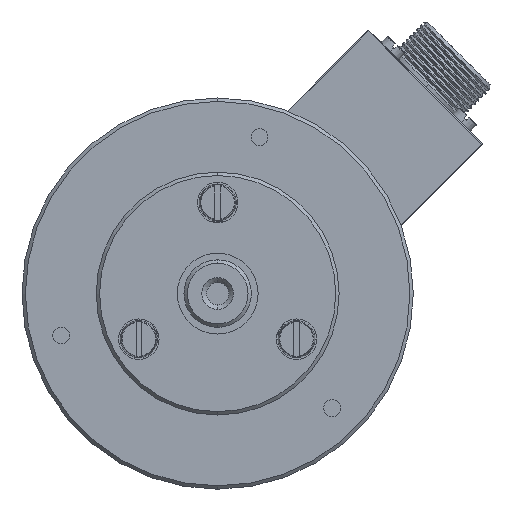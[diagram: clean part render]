
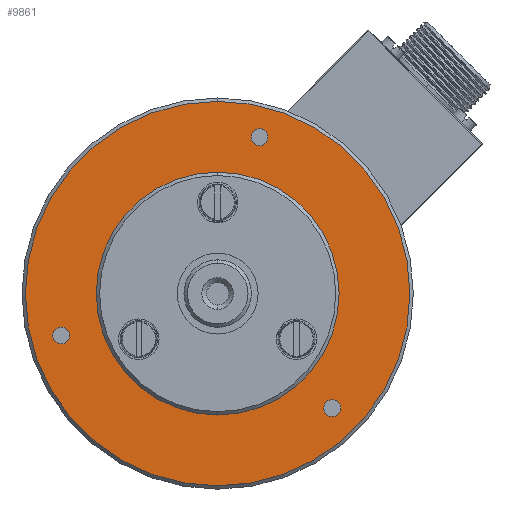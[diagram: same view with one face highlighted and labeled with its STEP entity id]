
A CAD part, left-side view. The second image highlights one B-rep face of the part: STEP entity #9861.
In plain terms, the highlighted planar face has unit normal (-1, 0, 0).
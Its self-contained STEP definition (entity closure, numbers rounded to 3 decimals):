
#210 = EDGE_CURVE ( 'NONE', #4553, #11681, #2674, .T. ) ;
#271 = FACE_OUTER_BOUND ( 'NONE', #13349, .T. ) ;
#423 = FACE_BOUND ( 'NONE', #1063, .T. ) ;
#450 = FACE_BOUND ( 'NONE', #3487, .T. ) ;
#499 = CARTESIAN_POINT ( 'NONE',  ( 34.363, 6.437, 9.78 ) ) ;
#525 = FACE_BOUND ( 'NONE', #2754, .T. ) ;
#647 = FACE_BOUND ( 'NONE', #5406, .T. ) ;
#827 = DIRECTION ( 'NONE',  ( 1., 0., 0. ) ) ;
#975 = DIRECTION ( 'NONE',  ( 0., 0., 1. ) ) ;
#978 = DIRECTION ( 'NONE',  ( 0., 0., 1. ) ) ;
#1034 = DIRECTION ( 'NONE',  ( -1., 0., 0. ) ) ;
#1063 = EDGE_LOOP ( 'NONE', ( #3509, #3571 ) ) ;
#1078 = CARTESIAN_POINT ( 'NONE',  ( 34.363, 23.408, 28.001 ) ) ;
#1326 = CARTESIAN_POINT ( 'NONE',  ( 34.363, 23.408, 46.001 ) ) ;
#1362 = CIRCLE ( 'NONE', #5635, 18. ) ;
#1447 = CARTESIAN_POINT ( 'NONE',  ( 34.363, 23.408, 56.501 ) ) ;
#1449 = CIRCLE ( 'NONE', #5670, 1.25 ) ;
#1524 = CIRCLE ( 'NONE', #5737, 1.25 ) ;
#1637 = CIRCLE ( 'NONE', #5727, 1.25 ) ;
#1787 = CIRCLE ( 'NONE', #5827, 1.25 ) ;
#1797 = CIRCLE ( 'NONE', #3314, 18. ) ;
#2152 = CIRCLE ( 'NONE', #5986, 28.5 ) ;
#2572 = AXIS2_PLACEMENT_3D ( 'NONE', #4815, #13021, #5865 ) ;
#2674 = CIRCLE ( 'NONE', #6241, 28.5 ) ;
#2754 = EDGE_LOOP ( 'NONE', ( #3363, #3413 ) ) ;
#2759 = AXIS2_PLACEMENT_3D ( 'NONE', #11660, #4529, #12731 ) ;
#2855 = DIRECTION ( 'NONE',  ( 0., 0., 1. ) ) ;
#2908 = DIRECTION ( 'NONE',  ( -1., 0., 0. ) ) ;
#2957 = CARTESIAN_POINT ( 'NONE',  ( 34.363, 17.196, 51.183 ) ) ;
#3237 = ORIENTED_EDGE ( 'NONE', *, *, #4344, .F. ) ;
#3260 = DIRECTION ( 'NONE',  ( 0., 0., 1. ) ) ;
#3284 = DIRECTION ( 'NONE',  ( -1., 0., 0. ) ) ;
#3303 = CARTESIAN_POINT ( 'NONE',  ( 34.363, 23.408, 28.001 ) ) ;
#3314 = AXIS2_PLACEMENT_3D ( 'NONE', #14486, #7435, #978 ) ;
#3321 = ORIENTED_EDGE ( 'NONE', *, *, #8659, .F. ) ;
#3363 = ORIENTED_EDGE ( 'NONE', *, *, #4390, .F. ) ;
#3413 = ORIENTED_EDGE ( 'NONE', *, *, #8815, .F. ) ;
#3468 = EDGE_CURVE ( 'NONE', #11681, #4553, #2152, .T. ) ;
#3487 = EDGE_LOOP ( 'NONE', ( #3237, #3321 ) ) ;
#3509 = ORIENTED_EDGE ( 'NONE', *, *, #4485, .F. ) ;
#3526 = CARTESIAN_POINT ( 'NONE',  ( 34.363, 46.59, 20.539 ) ) ;
#3571 = ORIENTED_EDGE ( 'NONE', *, *, #4011, .F. ) ;
#3593 = CARTESIAN_POINT ( 'NONE',  ( 34.363, 46.59, 23.039 ) ) ;
#3613 = ORIENTED_EDGE ( 'NONE', *, *, #7975, .F. ) ;
#3682 = ORIENTED_EDGE ( 'NONE', *, *, #4576, .F. ) ;
#3715 = ORIENTED_EDGE ( 'NONE', *, *, #3468, .T. ) ;
#3760 = ORIENTED_EDGE ( 'NONE', *, *, #210, .T. ) ;
#4011 = EDGE_CURVE ( 'NONE', #6400, #12660, #1787, .T. ) ;
#4336 = DIRECTION ( 'NONE',  ( 0., 0., 1. ) ) ;
#4344 = EDGE_CURVE ( 'NONE', #4487, #8952, #1524, .T. ) ;
#4365 = DIRECTION ( 'NONE',  ( -1., 0., 0. ) ) ;
#4381 = CARTESIAN_POINT ( 'NONE',  ( 34.363, 6.437, 11.03 ) ) ;
#4390 = EDGE_CURVE ( 'NONE', #8733, #7265, #1637, .T. ) ;
#4485 = EDGE_CURVE ( 'NONE', #12660, #6400, #1449, .T. ) ;
#4487 = VERTEX_POINT ( 'NONE', #3593 ) ;
#4529 = DIRECTION ( 'NONE',  ( -1., 0., 0. ) ) ;
#4553 = VERTEX_POINT ( 'NONE', #1447 ) ;
#4576 = EDGE_CURVE ( 'NONE', #7345, #5877, #1362, .T. ) ;
#4815 = CARTESIAN_POINT ( 'NONE',  ( 34.363, 6.437, 11.03 ) ) ;
#5139 = DIRECTION ( 'NONE',  ( 0., 0., 1. ) ) ;
#5199 = DIRECTION ( 'NONE',  ( -1., 0., 0. ) ) ;
#5291 = CARTESIAN_POINT ( 'NONE',  ( 34.363, 46.59, 21.789 ) ) ;
#5406 = EDGE_LOOP ( 'NONE', ( #3613, #3682 ) ) ;
#5635 = AXIS2_PLACEMENT_3D ( 'NONE', #1078, #1034, #975 ) ;
#5670 = AXIS2_PLACEMENT_3D ( 'NONE', #2957, #2908, #2855 ) ;
#5727 = AXIS2_PLACEMENT_3D ( 'NONE', #4381, #4365, #4336 ) ;
#5737 = AXIS2_PLACEMENT_3D ( 'NONE', #5291, #5199, #5139 ) ;
#5827 = AXIS2_PLACEMENT_3D ( 'NONE', #13674, #13660, #13624 ) ;
#5865 = DIRECTION ( 'NONE',  ( 0., 0., 1. ) ) ;
#5877 = VERTEX_POINT ( 'NONE', #1326 ) ;
#5986 = AXIS2_PLACEMENT_3D ( 'NONE', #3303, #3284, #3260 ) ;
#6086 = PLANE ( 'NONE',  #12654 ) ;
#6241 = AXIS2_PLACEMENT_3D ( 'NONE', #11276, #11142, #11256 ) ;
#6400 = VERTEX_POINT ( 'NONE', #8158 ) ;
#6713 = CARTESIAN_POINT ( 'NONE',  ( 34.363, 6.437, 12.28 ) ) ;
#7265 = VERTEX_POINT ( 'NONE', #499 ) ;
#7284 = CARTESIAN_POINT ( 'NONE',  ( 34.363, 41.408, 28.001 ) ) ;
#7345 = VERTEX_POINT ( 'NONE', #14396 ) ;
#7435 = DIRECTION ( 'NONE',  ( -1., 0., 0. ) ) ;
#7975 = EDGE_CURVE ( 'NONE', #5877, #7345, #1797, .T. ) ;
#8158 = CARTESIAN_POINT ( 'NONE',  ( 34.363, 17.196, 49.933 ) ) ;
#8425 = DIRECTION ( 'NONE',  ( 0., 0., -1. ) ) ;
#8608 = CARTESIAN_POINT ( 'NONE',  ( 34.363, 23.408, -0.499 ) ) ;
#8659 = EDGE_CURVE ( 'NONE', #8952, #4487, #10085, .T. ) ;
#8731 = CARTESIAN_POINT ( 'NONE',  ( 34.363, 17.196, 52.433 ) ) ;
#8733 = VERTEX_POINT ( 'NONE', #6713 ) ;
#8815 = EDGE_CURVE ( 'NONE', #7265, #8733, #9076, .T. ) ;
#8952 = VERTEX_POINT ( 'NONE', #3526 ) ;
#9076 = CIRCLE ( 'NONE', #2572, 1.25 ) ;
#9861 = ADVANCED_FACE ( 'NONE', ( #450, #525, #423, #647, #271 ), #6086, .F. ) ;
#10085 = CIRCLE ( 'NONE', #2759, 1.25 ) ;
#11142 = DIRECTION ( 'NONE',  ( -1., 0., 0. ) ) ;
#11256 = DIRECTION ( 'NONE',  ( 0., 0., 1. ) ) ;
#11276 = CARTESIAN_POINT ( 'NONE',  ( 34.363, 23.408, 28.001 ) ) ;
#11660 = CARTESIAN_POINT ( 'NONE',  ( 34.363, 46.59, 21.789 ) ) ;
#11681 = VERTEX_POINT ( 'NONE', #8608 ) ;
#12654 = AXIS2_PLACEMENT_3D ( 'NONE', #7284, #827, #8425 ) ;
#12660 = VERTEX_POINT ( 'NONE', #8731 ) ;
#12731 = DIRECTION ( 'NONE',  ( 0., 0., 1. ) ) ;
#13021 = DIRECTION ( 'NONE',  ( -1., 0., 0. ) ) ;
#13349 = EDGE_LOOP ( 'NONE', ( #3715, #3760 ) ) ;
#13624 = DIRECTION ( 'NONE',  ( 0., 0., 1. ) ) ;
#13660 = DIRECTION ( 'NONE',  ( -1., 0., 0. ) ) ;
#13674 = CARTESIAN_POINT ( 'NONE',  ( 34.363, 17.196, 51.183 ) ) ;
#14396 = CARTESIAN_POINT ( 'NONE',  ( 34.363, 23.408, 10.001 ) ) ;
#14486 = CARTESIAN_POINT ( 'NONE',  ( 34.363, 23.408, 28.001 ) ) ;
